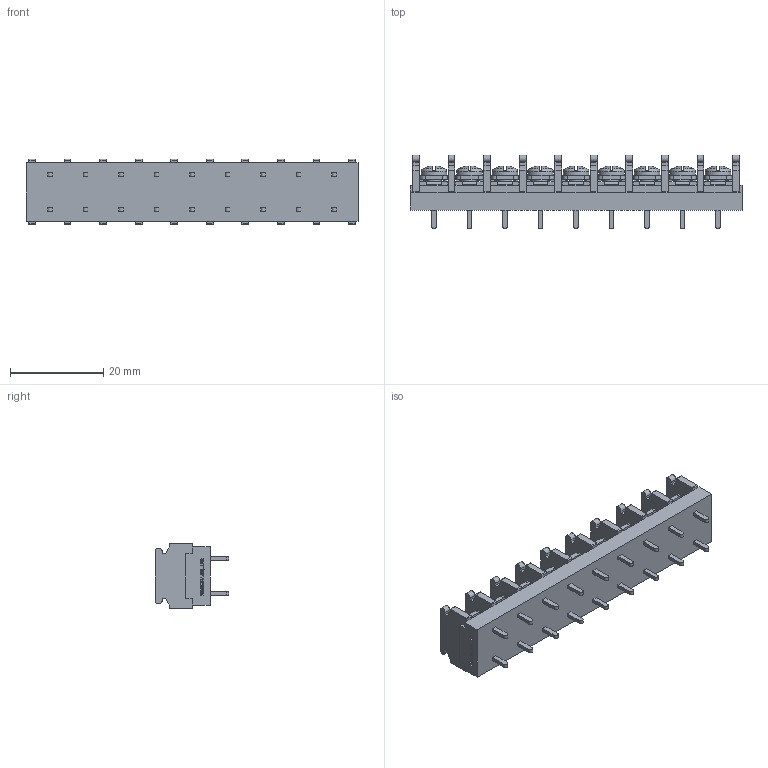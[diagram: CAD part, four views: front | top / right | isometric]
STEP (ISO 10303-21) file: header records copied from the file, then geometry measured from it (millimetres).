
FILE_DESCRIPTION(/* description */ ('Alibre Inc.'),/* implementation_level */ '2;1');
FILE_NAME(/* name */ 'export0',/* time_stamp */ '2015-10-23T20:19:16+09:00',/* author */ (''),/* organization */ (''),/* preprocessor_version */ 'ST-DEVELOPER v14',/* originating_system */ 'Alibre',/* authorisation */ '');
FILE_SCHEMA (('CONFIG_CONTROL_DESIGN'));
Length unit declared in the file: centimetre
Products named in the file (1): ID_1
Bounding box: 71.2 x 15.8 x 14 mm (x, y, z)
Volume: 6761.5 mm3; surface area: 6524.6 mm2
Topology: 1 solids, 1 shells, 1455 faces, 3974 edges, 2606 vertices
Faces by surface type: plane 1129, cylinder 150, bspline 104, cone 36, torus 18, sphere 18
Full cylindrical faces by diameter (mm): 3 x9, 5.5 x9
Entity records: 43609 total; most frequent: CARTESIAN_POINT 9234, ORIENTED_EDGE 7840, DIRECTION 5516, EDGE_CURVE 3920, VECTOR 2872, LINE 2872, VERTEX_POINT 2588, AXIS2_PLACEMENT_3D 1842
